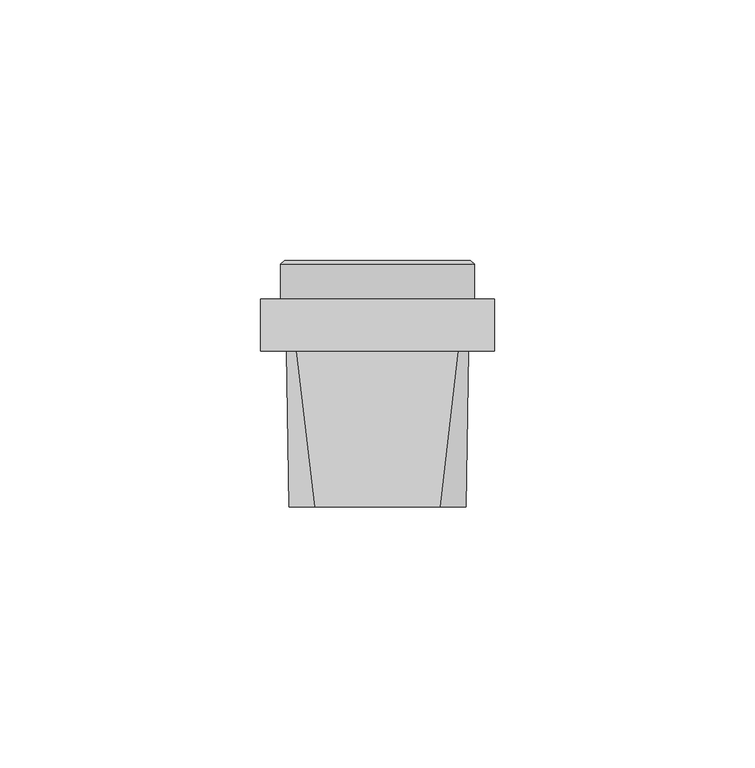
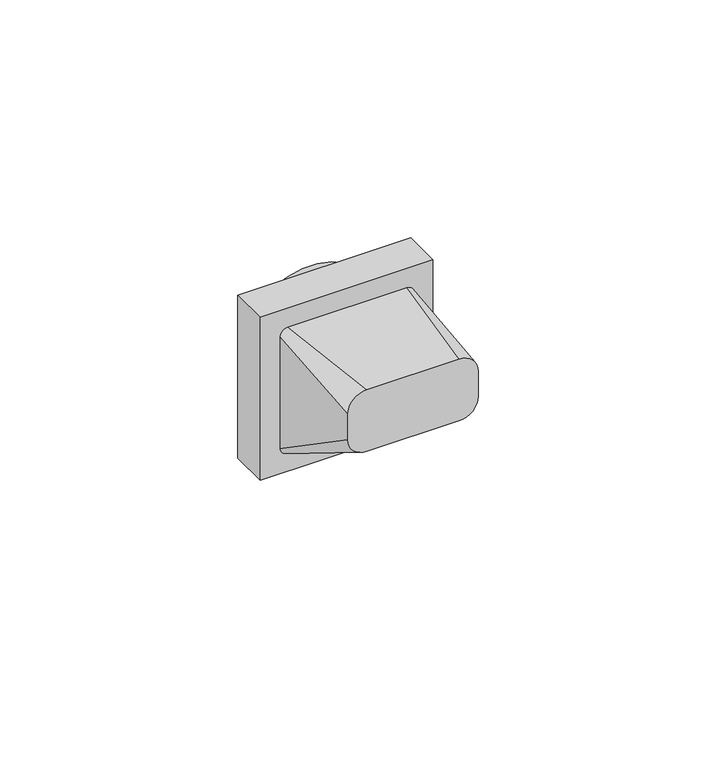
"""IFC4 building model written with IfcOpenShell, lengths in millimetres: proxy geometry, IEK_Skandy_Механизм свето-терморегулятора : ВР_SK-T01B."""

from ifc_helpers import new_model, si_unit, point, frame, frame_2d, origin, place, context, project, spatial, polyline, circle_curve, trimmed, segment, composite_curve, outline, extrude, source, transform, mapped, element, save
from ifc_brep_helpers import plane_surface, cylinder_surface, revolved_surface, spline_surface, advanced_brep


def electrical_fixtures_06ac67d5(model_context):
    return source(origin(), model_context, "Body", "SolidModel", [
        advanced_brep(
        [(-18.6103946, 10.0, 0.0), (18.6103946, 10.0, 0.0), (17.0578708, 16.0217188, 0.0), (-17.0578708, 16.0217188, 0.0), (0.0, 16.0217188, 0.0), (17.0578708, 17.3995837, 0.0), (-17.0578708, 17.3995837, 0.0), (17.8535392, 17.3995837, 0.0), (-17.8535392, 17.3995837, 0.0), (18.6103946, 16.6427283, 0.0), (-18.6103946, 16.6427283, 0.0)],
        [
            (0, 1, circle_curve(frame((0.0, 10.0, 0.0), z_axis=(0.0, -1.0, 0.0), x_axis=(-1.0, 0.0, 0.0)), 18.6103946)),
            (1, 0, circle_curve(frame((0.0, 10.0, 0.0), z_axis=(0.0, -1.0, 0.0), x_axis=(-1.0, 0.0, 0.0)), 18.6103946)),
            (2, 3, circle_curve(frame((0.0, 16.0217188, 0.0), z_axis=(0.0, 1.0, 0.0), x_axis=(-1.0, 0.0, 0.0)), 17.0578708)),
            (3, 4),
            (4, 2),
            (3, 2, circle_curve(frame((0.0, 16.0217188, 0.0), z_axis=(0.0, 1.0, 0.0), x_axis=(-1.0, 0.0, 0.0)), 17.0578708)),
            (2, 5),
            (5, 6, circle_curve(frame((0.0, 17.3995837, 0.0), z_axis=(0.0, 1.0, 0.0), x_axis=(-1.0, 0.0, 0.0)), 17.0578708)),
            (6, 3),
            (6, 5, circle_curve(frame((0.0, 17.3995837, 0.0), z_axis=(0.0, 1.0, 0.0), x_axis=(-1.0, 0.0, 0.0)), 17.0578708)),
            (5, 7),
            (7, 8, circle_curve(frame((0.0, 17.3995837, 0.0), z_axis=(0.0, 1.0, 0.0), x_axis=(-1.0, 0.0, 0.0)), 17.8535392)),
            (8, 6),
            (8, 7, circle_curve(frame((0.0, 17.3995837, 0.0), z_axis=(0.0, 1.0, 0.0), x_axis=(-1.0, 0.0, 0.0)), 17.8535392)),
            (7, 9),
            (9, 10, circle_curve(frame((0.0, 16.6427283, 0.0), z_axis=(0.0, 1.0, 0.0), x_axis=(-1.0, 0.0, 0.0)), 18.6103946)),
            (10, 8),
            (10, 9, circle_curve(frame((0.0, 16.6427283, 0.0), z_axis=(0.0, 1.0, 0.0), x_axis=(-1.0, 0.0, 0.0)), 18.6103946)),
            (9, 1),
            (0, 10),
        ],
        [
            plane_surface(frame((-19.3454313, 10.0, 0.0), z_axis=(0.0, -1.0, 0.0), x_axis=(0.0, 0.0, 1.0))),
            plane_surface(frame((0.0, 16.0217188, 0.0), z_axis=(0.0, 1.0, 0.0), x_axis=(-1.0, 0.0, 0.0))),
            revolved_surface(polyline([(-17.0578708, 16.0217188, 0.0), (-17.0578708, 17.3995837, 0.0)]), (0.0, 19.2432057, 0.0), (0.0, -1.0, 0.0)),
            plane_surface(frame((0.0, 17.3995837, 0.0), z_axis=(0.0, 1.0, 0.0), x_axis=(-1.0, 0.0, 0.0))),
            revolved_surface(polyline([(-17.8535392, 17.3995837, 0.0), (-18.6103946, 16.6427283, 0.0)]), (0.0, 19.2432057, 0.0), (0.0, -1.0, 0.0)),
            cylinder_surface(frame((0.0, 19.2432057, 0.0), z_axis=(0.0, -1.0, 0.0), x_axis=(-1.0, 0.0, 0.0)), 18.6103946),
        ],
        [
            (0, [[1, 2]]),
            (1, [[3, 4, 5]]),
            (1, [[-4, 6, -5]]),
            (2, [[-3, 7, 8, 9]]),
            (2, [[-6, -9, 10, -7]]),
            (3, [[-8, 11, 12, 13]]),
            (3, [[-10, -13, 14, -11]]),
            (4, [[-12, 15, 16, 17]]),
            (4, [[-14, -17, 18, -15]]),
            (5, [[-16, 19, -1, 20]]),
            (5, [[-18, -20, -2, -19]]),
        ],
    ),
        advanced_brep(
        [(-22.5, 10.0, 22.5), (22.5, 10.0, 22.5), (22.5, 10.0, -22.5), (-22.5, 10.0, -22.5), (-19.3454313, 10.0, 0.0), (19.3454313, 10.0, 0.0), (-22.5, 0.0, 22.5), (-22.5, 0.0, -22.5), (22.5, 0.0, -22.5), (22.5, 0.0, 22.5), (19.3454313, 4.3439145, 0.0), (-19.3454313, 4.3439145, 0.0)],
        [
            (0, 1),
            (1, 2),
            (2, 3),
            (3, 0),
            (4, 5, circle_curve(frame((0.0, 10.0, 0.0), z_axis=(0.0, -1.0, 0.0), x_axis=(-1.0, 0.0, 0.0)), 19.3454313)),
            (5, 4, circle_curve(frame((0.0, 10.0, 0.0), z_axis=(0.0, -1.0, 0.0), x_axis=(-1.0, 0.0, 0.0)), 19.3454313)),
            (6, 7),
            (7, 8),
            (8, 9),
            (9, 6),
            (3, 7),
            (6, 0),
            (2, 8),
            (1, 9),
            (10, 11, circle_curve(frame((0.0, 4.3439145, 0.0), z_axis=(0.0, 1.0, 0.0), x_axis=(-1.0, 0.0, 0.0)), 19.3454313)),
            (11, 10, circle_curve(frame((0.0, 4.3439145, 0.0), z_axis=(0.0, 1.0, 0.0), x_axis=(-1.0, 0.0, 0.0)), 19.3454313)),
            (10, 5),
            (4, 11),
        ],
        [
            plane_surface(frame((-22.5, 10.0, -22.5), z_axis=(0.0, 1.0, 0.0), x_axis=(0.0, 0.0, 1.0))),
            plane_surface(frame((-22.5, 0.0, -22.5), z_axis=(0.0, -1.0, 0.0), x_axis=(0.0, 0.0, -1.0))),
            plane_surface(frame((-22.5, 0.0, 22.5), z_axis=(-1.0, 0.0, 0.0), x_axis=(0.0, 1.0, 0.0))),
            plane_surface(frame((-22.5, 0.0, -22.5), z_axis=(0.0, 0.0, -1.0), x_axis=(0.0, 1.0, 0.0))),
            plane_surface(frame((22.5, 0.0, -22.5), z_axis=(1.0, 0.0, 0.0), x_axis=(0.0, 1.0, 0.0))),
            plane_surface(frame((22.5, 0.0, 22.5), z_axis=(0.0, 0.0, 1.0), x_axis=(0.0, 1.0, 0.0))),
            plane_surface(frame((-19.3454313, 4.3439145, 0.0), z_axis=(0.0, 1.0, 0.0), x_axis=(0.0, 0.0, -1.0))),
            revolved_surface(polyline([(-19.3454313, 10.0, 0.0), (-19.3454313, 4.3439145, 0.0)]), (0.0, 4.3439145, 0.0), (0.0, 1.0, 0.0)),
        ],
        [
            (0, [[1, 2, 3, 4], [5, 6]]),
            (1, [[7, 8, 9, 10]]),
            (2, [[-4, 11, -7, 12]]),
            (3, [[-3, 13, -8, -11]]),
            (4, [[-2, 14, -9, -13]]),
            (5, [[-1, -12, -10, -14]]),
            (6, [[15, 16]]),
            (7, [[-15, 17, -5, 18]]),
            (7, [[-16, -18, -6, -17]]),
        ],
    ),
        extrude(outline(composite_curve([segment(trimmed(circle_curve(frame_2d((0.0, 0.003319)), 17.0578704), [point((17.0578704, 0.003319))], [point((-17.0578704, 0.003319))], False, "CARTESIAN"), True, "CONTINUOUS"), segment(trimmed(circle_curve(frame_2d((0.0, 0.003319)), 17.0578704), [point((-17.0578704, 0.003319))], [point((17.0578704, 0.003319))], False, "CARTESIAN"), True, "CONTINUOUS")], self_intersect=False)), frame((0.0, 16.0217188, 0.0), z_axis=(0.0, 1.0, 0.0), x_axis=(0.0, 0.0, 1.0)), (0.0, 0.0, 1.0), 1.3778649),
        advanced_brep(
        [(-12.0, -30.0, 17.0), (-17.0, -30.0, 12.0), (-17.0, -30.0, 5.0), (-12.0, -30.0, 0.0), (12.0, -30.0, 0.0), (17.0, -30.0, 5.0), (17.0, -30.0, 12.0), (12.0, -30.0, 17.0), (-15.5, 0.0, 17.5), (15.5, 0.0, 17.5), (17.5, 0.0, 15.5), (17.5, 0.0, -15.5), (15.5, 0.0, -17.5), (-15.5, 0.0, -17.5), (-17.5, 0.0, -15.5), (-17.5, 0.0, 15.5)],
        [
            (0, 1, circle_curve(frame((-12.0, -30.0, 12.0), z_axis=(0.0, -1.0, 0.0), x_axis=(1.0, 0.0, 0.0)), 5.0)),
            (1, 2),
            (2, 3, circle_curve(frame((-12.0, -30.0, 5.0), z_axis=(0.0, -1.0, 0.0), x_axis=(1.0, 0.0, 0.0)), 5.0)),
            (3, 4),
            (4, 5, circle_curve(frame((12.0, -30.0, 5.0), z_axis=(0.0, -1.0, 0.0), x_axis=(1.0, 0.0, 0.0)), 5.0)),
            (5, 6),
            (6, 7, circle_curve(frame((12.0, -30.0, 12.0), z_axis=(0.0, -1.0, 0.0), x_axis=(1.0, 0.0, 0.0)), 5.0)),
            (7, 0),
            (8, 9),
            (9, 10, circle_curve(frame((15.5, 0.0, 15.5), z_axis=(0.0, 1.0, 0.0), x_axis=(1.0, 0.0, 0.0)), 2.0)),
            (10, 11),
            (11, 12, circle_curve(frame((15.5, 0.0, -15.5), z_axis=(0.0, 1.0, 0.0), x_axis=(1.0, 0.0, 0.0)), 2.0)),
            (12, 13),
            (13, 14, circle_curve(frame((-15.5, 0.0, -15.5), z_axis=(0.0, 1.0, 0.0), x_axis=(1.0, 0.0, 0.0)), 2.0)),
            (14, 15),
            (15, 8, circle_curve(frame((-15.5, 0.0, 15.5), z_axis=(0.0, 1.0, 0.0), x_axis=(1.0, 0.0, 0.0)), 2.0)),
            (8, 0),
            (7, 9),
            (6, 10),
            (5, 11),
            (4, 12),
            (3, 13),
            (2, 14),
            (1, 15),
        ],
        [
            plane_surface(frame((0.0, -30.0, 8.5), z_axis=(0.0, -1.0, 0.0), x_axis=(-1.0, 0.0, 0.0))),
            plane_surface(frame((0.0, 0.0, 0.0), z_axis=(0.0, 1.0, 0.0), x_axis=(-1.0, 0.0, 0.0))),
            plane_surface(frame((0.0, 0.0, 17.5), z_axis=(0.0, -0.016664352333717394, 0.9998611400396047), x_axis=(-1.0, 0.0, 0.0))),
            spline_surface(2, 1, [[(17.5, 0.0, 15.5), (17.0, -30.0, 12.0)], [(17.5, 0.0, 17.5), (17.0, -30.0, 17.0)], [(15.5, 0.0, 17.5), (12.0, -30.0, 17.0)]], [3, 3], [2, 2], [0.0, 1.0], [0.0, 1.0], weights=[[1.0, 1.0], [0.7071067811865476, 0.7071067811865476], [1.0, 1.0]]),
            plane_surface(frame((17.5, 0.0, 0.0), z_axis=(0.9998611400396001, -0.01666435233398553, 0.0), x_axis=(0.0, 0.0, 1.0))),
            spline_surface(2, 1, [[(15.5, 0.0, -17.5), (12.0, -30.0, 0.0)], [(17.5, 0.0, -17.5), (17.0, -30.0, 0.0)], [(17.5, 0.0, -15.5), (17.0, -30.0, 5.0)]], [3, 3], [2, 2], [0.0, 1.0], [0.0, 1.0], weights=[[1.0, 1.0], [0.7071067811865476, 0.7071067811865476], [1.0, 1.0]]),
            plane_surface(frame((0.0, 0.0, -17.5), z_axis=(0.0, -0.5038710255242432, -0.8637789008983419), x_axis=(1.0, 0.0, 0.0))),
            spline_surface(2, 1, [[(-17.5, 0.0, -15.5), (-17.0, -30.0, 5.0)], [(-17.5, 0.0, -17.5), (-17.0, -30.0, 0.0)], [(-15.5, 0.0, -17.5), (-12.0, -30.0, 0.0)]], [3, 3], [2, 2], [0.0, 1.0], [0.0, 1.0], weights=[[1.0, 1.0], [0.7071067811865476, 0.7071067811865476], [1.0, 1.0]]),
            plane_surface(frame((-17.5, 0.0, 0.0), z_axis=(-0.9998611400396, -0.01666435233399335, 0.0), x_axis=(0.0, 0.0, -1.0))),
            spline_surface(2, 1, [[(-15.5, 0.0, 17.5), (-12.0, -30.0, 17.0)], [(-17.5, 0.0, 17.5), (-17.0, -30.0, 17.0)], [(-17.5, 0.0, 15.5), (-17.0, -30.0, 12.0)]], [3, 3], [2, 2], [0.0, 1.0], [0.0, 1.0], weights=[[1.0, 1.0], [0.7071067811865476, 0.7071067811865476], [1.0, 1.0]]),
        ],
        [
            (0, [[1, 2, 3, 4, 5, 6, 7, 8]]),
            (1, [[9, 10, 11, 12, 13, 14, 15, 16]]),
            (2, [[-9, 17, -8, 18]]),
            (3, [[-10, -18, -7, 19]]),
            (4, [[-11, -19, -6, 20]]),
            (5, [[-12, -20, -5, 21]]),
            (6, [[-13, -21, -4, 22]]),
            (7, [[-14, -22, -3, 23]]),
            (8, [[-15, -23, -2, 24]]),
            (9, [[-16, -24, -1, -17]]),
        ],
    ),
    ])


if __name__ == "__main__":
    model = new_model("IFC4")
    model_context = context("Model", 3, world=origin())
    ifc_project = project(units=[si_unit("LENGTHUNIT", "METRE", prefix="MILLI")], contexts=[model_context])
    site = spatial("IfcSite", under=ifc_project)
    building = spatial("IfcBuilding", under=site)
    placement = place(None, origin())
    electrical_fixtures_shape = electrical_fixtures_06ac67d5(model_context)
    element("IfcBuildingElementProxy", 1, Name="IEK_Skandy_Механизм свето-терморегулятора : ВР_SK-T01B", ObjectType="IEK_Skandy_Механизм свето-терморегулятора : ВР_SK-T01B", at=placement, inside=building, context=model_context, shape_type="MappedRepresentation", body=[
        mapped(electrical_fixtures_shape, transform((0.0, 0.0, 0.0), x_axis=(1.0, 0.0, 0.0), y_axis=(0.0, 1.0, 0.0), z_axis=(0.0, 0.0, 1.0))),
    ])
    save(model, "model.ifc")
